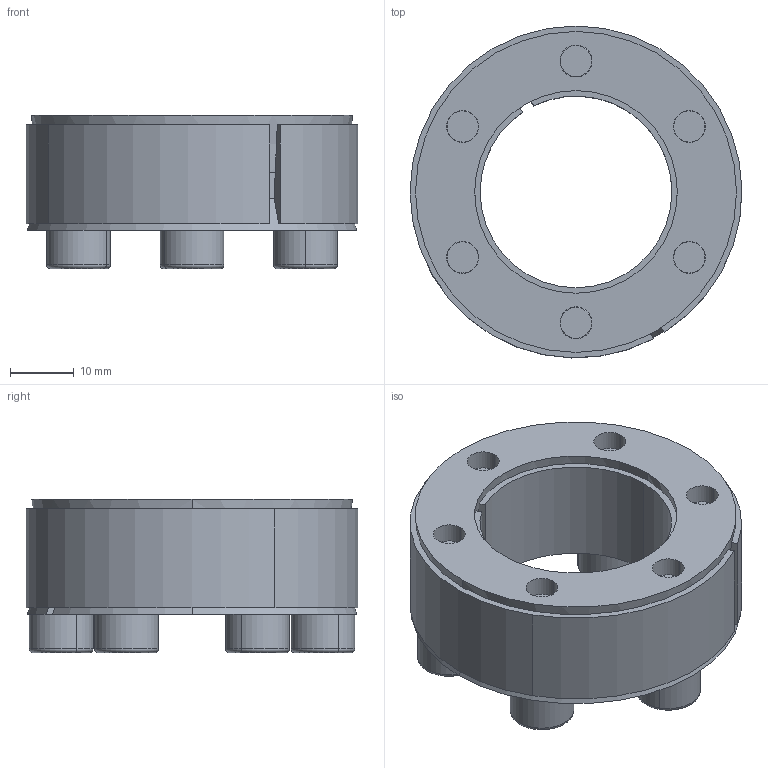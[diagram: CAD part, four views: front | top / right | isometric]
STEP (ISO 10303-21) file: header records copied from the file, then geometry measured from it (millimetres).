
FILE_DESCRIPTION (( 'STEP AP214' ), '1' );
FILE_NAME ('CONEX-L-30x52.step', '2013-04-06T13:22:33', ( 'Pc' ), ( '' ), 'SwSTEP 2.0', 'SolidWorks 2013', '' );
FILE_SCHEMA (( 'AUTOMOTIVE_DESIGN' ));
Length unit declared in the file: millimetre
Products named in the file (1): CONEX-L-30x52
Bounding box: 51.97 x 51.96 x 24.01 mm (x, y, z)
Volume: 23712 mm3; surface area: 20605.6 mm2
Topology: 9 solids, 9 shells, 223 faces, 511 edges, 306 vertices
Faces by surface type: plane 101, cylinder 58, cone 40, torus 24
Entity records: 8830 total; most frequent: DIRECTION 1180, CARTESIAN_POINT 1062, ORIENTED_EDGE 998, EDGE_CURVE 499, AXIS2_PLACEMENT_3D 465, VERTEX_POINT 306, EDGE_LOOP 265, VECTOR 250
